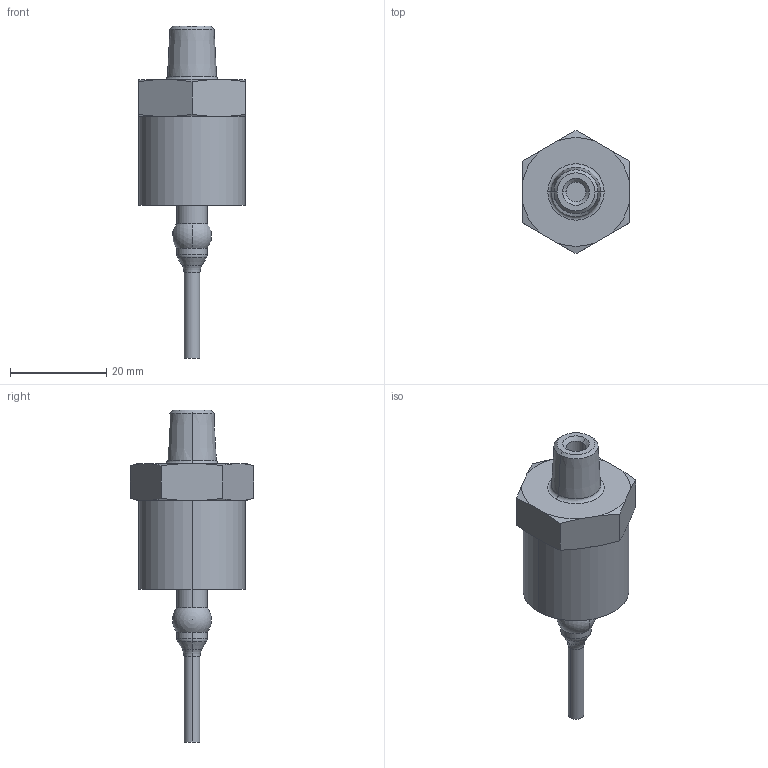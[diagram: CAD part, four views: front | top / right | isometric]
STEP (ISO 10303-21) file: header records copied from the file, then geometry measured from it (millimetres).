
FILE_DESCRIPTION (( 'STEP AP214' ), '1' );
FILE_NAME ('P12M .125NPT WIRES.STEP', '2008-01-14T13:19:37', ( 'Authorized User' ), ( 'Precision Sensors' ), 'SwSTEP 2.0', 'SolidWorks 2006303', '' );
FILE_SCHEMA (( 'AUTOMOTIVE_DESIGN' ));
Length unit declared in the file: inch
Products named in the file (1): P12M .125NPT WIRES
Bounding box: 22.23 x 25.66 x 69.09 mm (x, y, z)
Volume: 4579.9 mm3; surface area: 5195.9 mm2
Topology: 2 solids, 2 shells, 74 faces, 171 edges, 105 vertices
Faces by surface type: cone 26, cylinder 16, plane 16, torus 14, sphere 2
Entity records: 2142 total; most frequent: CARTESIAN_POINT 415, DIRECTION 386, ORIENTED_EDGE 332, AXIS2_PLACEMENT_3D 169, EDGE_CURVE 166, VERTEX_POINT 102, CIRCLE 94, EDGE_LOOP 82
